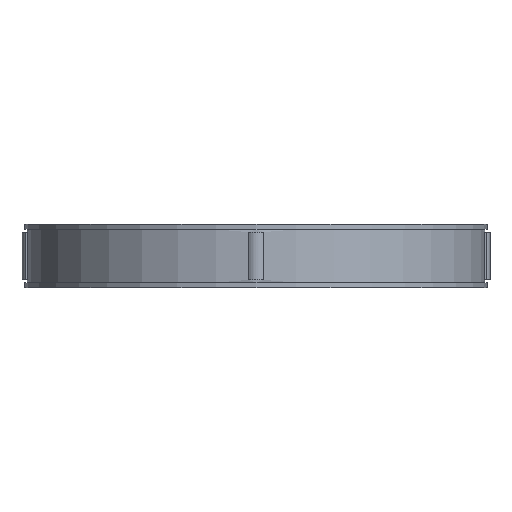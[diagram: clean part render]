
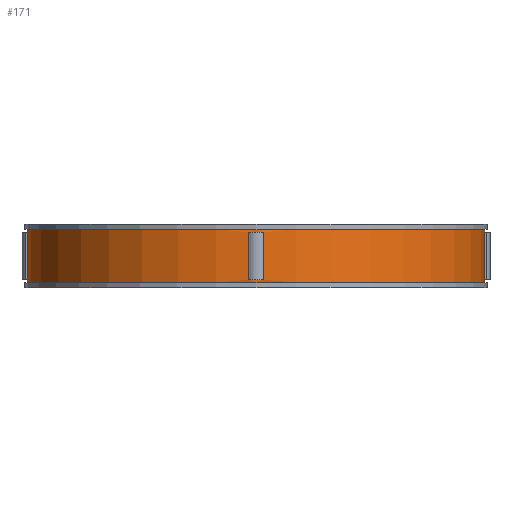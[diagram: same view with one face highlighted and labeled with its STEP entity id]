
A CAD part, front view. The second image highlights one B-rep face of the part: STEP entity #171.
In plain terms, the highlighted cylindrical face has radius 43 mm (diameter 86 mm), a full revolution.
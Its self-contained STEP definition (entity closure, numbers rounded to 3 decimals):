
#171=ADVANCED_FACE('',(#359,#360,#361,#362,#363,#364),#219,.T.);
#219=CYLINDRICAL_SURFACE('',#882,43.);
#231=LINE('',#1207,#295);
#232=LINE('',#1212,#296);
#233=LINE('',#1215,#297);
#234=LINE('',#1220,#298);
#235=LINE('',#1223,#299);
#236=LINE('',#1228,#300);
#237=LINE('',#1234,#301);
#238=LINE('',#1238,#302);
#295=VECTOR('',#966,1.);
#296=VECTOR('',#969,1.);
#297=VECTOR('',#972,1.);
#298=VECTOR('',#975,1.);
#299=VECTOR('',#978,1.);
#300=VECTOR('',#981,1.);
#301=VECTOR('',#986,1.);
#302=VECTOR('',#989,1.);
#359=FACE_BOUND('',#383,.T.);
#360=FACE_BOUND('',#384,.T.);
#361=FACE_BOUND('',#385,.T.);
#362=FACE_BOUND('',#386,.T.);
#363=FACE_BOUND('',#387,.T.);
#364=FACE_BOUND('',#388,.T.);
#383=EDGE_LOOP('',(#447));
#384=EDGE_LOOP('',(#448));
#385=EDGE_LOOP('',(#449,#450,#451,#452));
#386=EDGE_LOOP('',(#453,#454,#455,#456));
#387=EDGE_LOOP('',(#457,#458,#459,#460));
#388=EDGE_LOOP('',(#461,#462,#463,#464));
#447=ORIENTED_EDGE('',*,*,#727,.F.);
#448=ORIENTED_EDGE('',*,*,#728,.T.);
#449=ORIENTED_EDGE('',*,*,#729,.F.);
#450=ORIENTED_EDGE('',*,*,#730,.T.);
#451=ORIENTED_EDGE('',*,*,#731,.F.);
#452=ORIENTED_EDGE('',*,*,#732,.F.);
#453=ORIENTED_EDGE('',*,*,#733,.F.);
#454=ORIENTED_EDGE('',*,*,#734,.T.);
#455=ORIENTED_EDGE('',*,*,#735,.F.);
#456=ORIENTED_EDGE('',*,*,#736,.F.);
#457=ORIENTED_EDGE('',*,*,#737,.F.);
#458=ORIENTED_EDGE('',*,*,#738,.T.);
#459=ORIENTED_EDGE('',*,*,#739,.F.);
#460=ORIENTED_EDGE('',*,*,#740,.F.);
#461=ORIENTED_EDGE('',*,*,#741,.F.);
#462=ORIENTED_EDGE('',*,*,#742,.T.);
#463=ORIENTED_EDGE('',*,*,#743,.T.);
#464=ORIENTED_EDGE('',*,*,#744,.T.);
#655=VERTEX_POINT('',#1204);
#656=VERTEX_POINT('',#1206);
#657=VERTEX_POINT('',#1208);
#658=VERTEX_POINT('',#1209);
#659=VERTEX_POINT('',#1211);
#660=VERTEX_POINT('',#1213);
#661=VERTEX_POINT('',#1216);
#662=VERTEX_POINT('',#1217);
#663=VERTEX_POINT('',#1219);
#664=VERTEX_POINT('',#1221);
#665=VERTEX_POINT('',#1224);
#666=VERTEX_POINT('',#1225);
#667=VERTEX_POINT('',#1227);
#668=VERTEX_POINT('',#1229);
#669=VERTEX_POINT('',#1232);
#670=VERTEX_POINT('',#1233);
#671=VERTEX_POINT('',#1235);
#672=VERTEX_POINT('',#1237);
#727=EDGE_CURVE('',#655,#655,#831,.T.);
#728=EDGE_CURVE('',#656,#656,#832,.T.);
#729=EDGE_CURVE('',#657,#658,#231,.T.);
#730=EDGE_CURVE('',#657,#659,#833,.T.);
#731=EDGE_CURVE('',#660,#659,#232,.T.);
#732=EDGE_CURVE('',#658,#660,#834,.T.);
#733=EDGE_CURVE('',#661,#662,#233,.T.);
#734=EDGE_CURVE('',#661,#663,#835,.T.);
#735=EDGE_CURVE('',#664,#663,#234,.T.);
#736=EDGE_CURVE('',#662,#664,#836,.T.);
#737=EDGE_CURVE('',#665,#666,#235,.T.);
#738=EDGE_CURVE('',#665,#667,#837,.T.);
#739=EDGE_CURVE('',#668,#667,#236,.T.);
#740=EDGE_CURVE('',#666,#668,#838,.T.);
#741=EDGE_CURVE('',#669,#670,#839,.T.);
#742=EDGE_CURVE('',#669,#671,#237,.T.);
#743=EDGE_CURVE('',#671,#672,#840,.T.);
#744=EDGE_CURVE('',#672,#670,#238,.T.);
#831=CIRCLE('',#872,43.);
#832=CIRCLE('',#873,43.);
#833=CIRCLE('',#874,43.);
#834=CIRCLE('',#875,43.);
#835=CIRCLE('',#876,43.);
#836=CIRCLE('',#877,43.);
#837=CIRCLE('',#878,43.);
#838=CIRCLE('',#879,43.);
#839=CIRCLE('',#880,43.);
#840=CIRCLE('',#881,43.);
#872=AXIS2_PLACEMENT_3D('',#1203,#962,#963);
#873=AXIS2_PLACEMENT_3D('',#1205,#964,#965);
#874=AXIS2_PLACEMENT_3D('',#1210,#967,#968);
#875=AXIS2_PLACEMENT_3D('',#1214,#970,#971);
#876=AXIS2_PLACEMENT_3D('',#1218,#973,#974);
#877=AXIS2_PLACEMENT_3D('',#1222,#976,#977);
#878=AXIS2_PLACEMENT_3D('',#1226,#979,#980);
#879=AXIS2_PLACEMENT_3D('',#1230,#982,#983);
#880=AXIS2_PLACEMENT_3D('',#1231,#984,#985);
#881=AXIS2_PLACEMENT_3D('',#1236,#987,#988);
#882=AXIS2_PLACEMENT_3D('',#1239,#990,#991);
#962=DIRECTION('',(0.,0.,1.));
#963=DIRECTION('',(1.,0.,0.));
#964=DIRECTION('',(0.,0.,1.));
#965=DIRECTION('',(1.,0.,0.));
#966=DIRECTION('',(0.,0.,-1.));
#967=DIRECTION('',(0.,0.,1.));
#968=DIRECTION('',(1.,0.,0.));
#969=DIRECTION('',(0.,0.,1.));
#970=DIRECTION('',(0.,0.,1.));
#971=DIRECTION('',(1.,0.,0.));
#972=DIRECTION('',(0.,0.,-1.));
#973=DIRECTION('',(0.,0.,1.));
#974=DIRECTION('',(1.,0.,0.));
#975=DIRECTION('',(0.,0.,1.));
#976=DIRECTION('',(0.,0.,1.));
#977=DIRECTION('',(1.,0.,0.));
#978=DIRECTION('',(0.,0.,-1.));
#979=DIRECTION('',(0.,0.,1.));
#980=DIRECTION('',(1.,0.,0.));
#981=DIRECTION('',(0.,0.,1.));
#982=DIRECTION('',(0.,0.,1.));
#983=DIRECTION('',(1.,0.,0.));
#984=DIRECTION('',(0.,0.,-1.));
#985=DIRECTION('',(-1.,0.,0.));
#986=DIRECTION('',(0.,0.,-1.));
#987=DIRECTION('',(0.,0.,-1.));
#988=DIRECTION('',(-1.,0.,0.));
#989=DIRECTION('',(0.,0.,1.));
#990=DIRECTION('',(0.,0.,-1.));
#991=DIRECTION('',(-1.,0.,0.));
#1203=CARTESIAN_POINT('',(0.,0.,11.));
#1204=CARTESIAN_POINT('',(43.,0.,11.));
#1205=CARTESIAN_POINT('',(0.,0.,1.));
#1206=CARTESIAN_POINT('',(43.,0.,1.));
#1207=CARTESIAN_POINT('',(42.975,-1.471,12.));
#1208=CARTESIAN_POINT('',(42.975,-1.471,10.5));
#1209=CARTESIAN_POINT('',(42.975,-1.471,1.5));
#1210=CARTESIAN_POINT('',(0.,0.,10.5));
#1211=CARTESIAN_POINT('',(42.975,1.471,10.5));
#1212=CARTESIAN_POINT('',(42.975,1.471,12.));
#1213=CARTESIAN_POINT('',(42.975,1.471,1.5));
#1214=CARTESIAN_POINT('',(0.,0.,1.5));
#1215=CARTESIAN_POINT('',(1.471,42.975,12.));
#1216=CARTESIAN_POINT('',(1.471,42.975,10.5));
#1217=CARTESIAN_POINT('',(1.471,42.975,1.5));
#1218=CARTESIAN_POINT('',(0.,0.,10.5));
#1219=CARTESIAN_POINT('',(-1.471,42.975,10.5));
#1220=CARTESIAN_POINT('',(-1.471,42.975,12.));
#1221=CARTESIAN_POINT('',(-1.471,42.975,1.5));
#1222=CARTESIAN_POINT('',(0.,0.,1.5));
#1223=CARTESIAN_POINT('',(-42.975,1.471,12.));
#1224=CARTESIAN_POINT('',(-42.975,1.471,10.5));
#1225=CARTESIAN_POINT('',(-42.975,1.471,1.5));
#1226=CARTESIAN_POINT('',(0.,0.,10.5));
#1227=CARTESIAN_POINT('',(-42.975,-1.471,10.5));
#1228=CARTESIAN_POINT('',(-42.975,-1.471,12.));
#1229=CARTESIAN_POINT('',(-42.975,-1.471,1.5));
#1230=CARTESIAN_POINT('',(0.,0.,1.5));
#1231=CARTESIAN_POINT('',(0.,0.,10.5));
#1232=CARTESIAN_POINT('',(1.471,-42.975,10.5));
#1233=CARTESIAN_POINT('',(-1.471,-42.975,10.5));
#1234=CARTESIAN_POINT('',(1.471,-42.975,12.));
#1235=CARTESIAN_POINT('',(1.471,-42.975,1.5));
#1236=CARTESIAN_POINT('',(0.,0.,1.5));
#1237=CARTESIAN_POINT('',(-1.471,-42.975,1.5));
#1238=CARTESIAN_POINT('',(-1.471,-42.975,12.));
#1239=CARTESIAN_POINT('',(0.,0.,12.));
